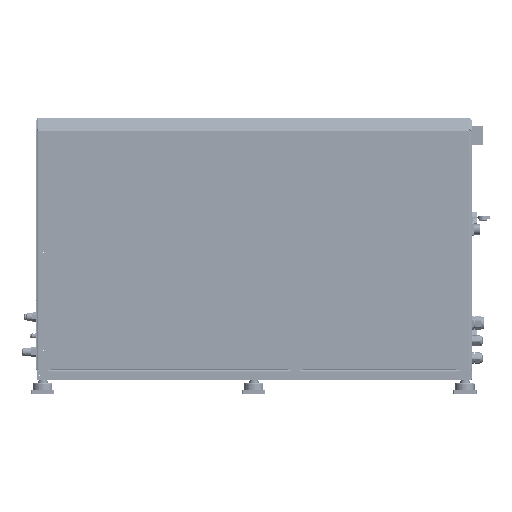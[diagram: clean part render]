
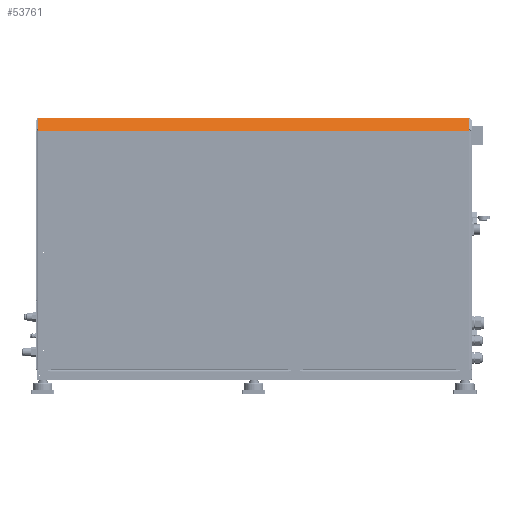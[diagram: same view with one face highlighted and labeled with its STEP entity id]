
A CAD part, top view. The second image highlights one B-rep face of the part: STEP entity #53761.
In plain terms, the highlighted planar face has unit normal (0, 0.707, 0.707) as drawn and (0, 0.707, -0.707) by its records, which use the part's own axes.
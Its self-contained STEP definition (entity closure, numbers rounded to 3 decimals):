
#3304=PLANE('',#58679);
#5565=FACE_OUTER_BOUND('',#9021,.T.);
#9021=EDGE_LOOP('',(#43462,#43463,#43464,#43465));
#13752=LINE('',#86767,#18884);
#13753=LINE('',#86769,#18885);
#13754=LINE('',#86771,#18886);
#13755=LINE('',#86772,#18887);
#18884=VECTOR('',#68835,10.);
#18885=VECTOR('',#68836,10.);
#18886=VECTOR('',#68837,10.);
#18887=VECTOR('',#68838,10.);
#25670=VERTEX_POINT('',#86762);
#25671=VERTEX_POINT('',#86766);
#25672=VERTEX_POINT('',#86768);
#25673=VERTEX_POINT('',#86770);
#31997=EDGE_CURVE('',#25671,#25670,#13752,.T.);
#31998=EDGE_CURVE('',#25672,#25671,#13753,.T.);
#31999=EDGE_CURVE('',#25672,#25673,#13754,.T.);
#32000=EDGE_CURVE('',#25670,#25673,#13755,.T.);
#43462=ORIENTED_EDGE('',*,*,#31997,.F.);
#43463=ORIENTED_EDGE('',*,*,#31998,.F.);
#43464=ORIENTED_EDGE('',*,*,#31999,.T.);
#43465=ORIENTED_EDGE('',*,*,#32000,.F.);
#53761=ADVANCED_FACE('',(#5565),#3304,.T.);
#58679=AXIS2_PLACEMENT_3D('',#86765,#68833,#68834);
#68833=DIRECTION('center_axis',(0.,0.707,
-0.707));
#68834=DIRECTION('ref_axis',(0.,0.707,0.707));
#68835=DIRECTION('',(1.,0.,0.));
#68836=DIRECTION('',(0.,-0.707,-0.707));
#68837=DIRECTION('',(1.,0.,0.));
#68838=DIRECTION('',(0.,0.707,0.707));
#86762=CARTESIAN_POINT('',(548.5,-22.7,-428.421));
#86765=CARTESIAN_POINT('Origin',(0.,190.014,-215.707));
#86766=CARTESIAN_POINT('',(-548.5,-22.7,-428.421));
#86767=CARTESIAN_POINT('',(0.,-22.7,-428.421));
#86768=CARTESIAN_POINT('',(-548.5,9.421,-396.3));
#86769=CARTESIAN_POINT('',(-548.5,-23.9,-429.621));
#86770=CARTESIAN_POINT('',(548.5,9.421,-396.3));
#86771=CARTESIAN_POINT('',(0.,9.421,-396.3));
#86772=CARTESIAN_POINT('',(548.5,420.459,14.738));
